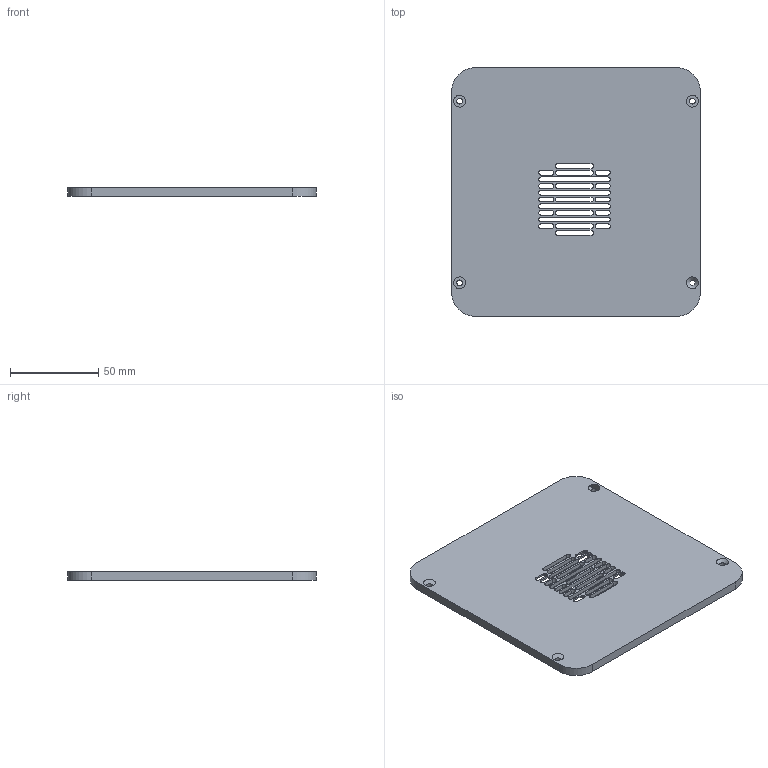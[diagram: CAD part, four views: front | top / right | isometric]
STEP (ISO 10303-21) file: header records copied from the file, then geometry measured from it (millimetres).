
FILE_DESCRIPTION(/* description */ ('Dev Kit Enclosure Top PC transparent'),/* implementation_level */ '2;1');
FILE_NAME(/* name */ '10G_GW_ENC_Enc_Top_PC_Clear.step',/* time_stamp */ '2025-12-04T10:30:15+01:00',/* author */ (''),/* organization */ (''),/* preprocessor_version */ 'ST-DEVELOPER v20.1',/* originating_system */ 'Autodesk Translation Framework v14.21.0.0',/* authorisation */ '');
FILE_SCHEMA (('AUTOMOTIVE_DESIGN { 1 0 10303 214 3 1 1 }'));
Length unit declared in the file: millimetre
Products named in the file (1): 2025-10-07-15-30-03-962
Bounding box: 141 x 141 x 5 mm (x, y, z)
Volume: 90501.6 mm3; surface area: 42849.8 mm2
Topology: 1 solids, 1 shells, 166 faces, 461 edges, 306 vertices
Faces by surface type: plane 87, cylinder 75, cone 4
Full cylindrical faces by diameter (mm): 1 x1, 3.2 x4, 8.27 x2
Entity records: 5516 total; most frequent: DIRECTION 953, CARTESIAN_POINT 934, ORIENTED_EDGE 922, EDGE_CURVE 461, AXIS2_PLACEMENT_3D 325, VERTEX_POINT 306, LINE 303, VECTOR 303
